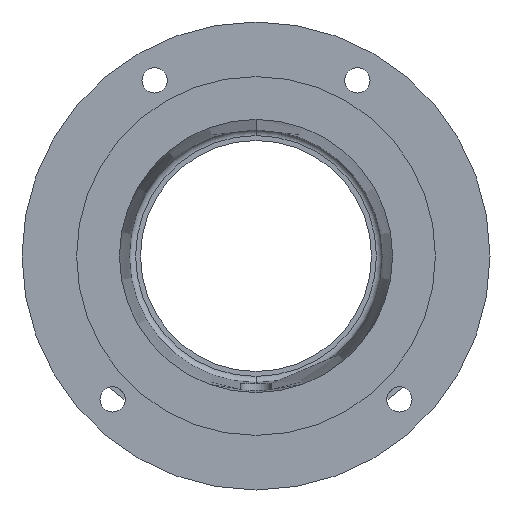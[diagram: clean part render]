
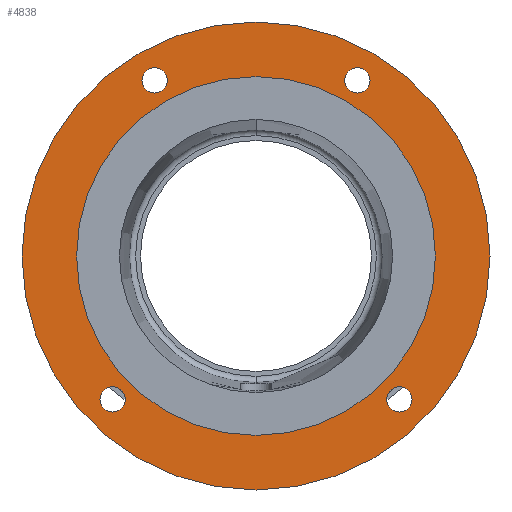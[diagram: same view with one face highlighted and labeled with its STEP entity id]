
A CAD part, front view. The second image highlights one B-rep face of the part: STEP entity #4838.
In plain terms, the highlighted planar face has unit normal (0, -1, 0).
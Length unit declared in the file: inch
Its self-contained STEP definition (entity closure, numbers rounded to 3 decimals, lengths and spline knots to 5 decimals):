
#6 = CARTESIAN_POINT ( 'NONE',  ( 0., 0., 0. ) ) ;
#9 = DIRECTION ( 'NONE',  ( 0., -1., 0. ) ) ;
#24 = DIRECTION ( 'NONE',  ( 0., -1., 0. ) ) ;
#59 = CIRCLE ( 'NONE', #3238, 0.20312 ) ;
#64 = DIRECTION ( 'NONE',  ( 0., 0., -1. ) ) ;
#126 = VERTEX_POINT ( 'NONE', #1645 ) ;
#138 = EDGE_CURVE ( 'NONE', #3826, #141, #2559, .T. ) ;
#141 = VERTEX_POINT ( 'NONE', #194 ) ;
#142 = EDGE_CURVE ( 'NONE', #1133, #4012, #1615, .T. ) ;
#154 = EDGE_CURVE ( 'NONE', #1554, #1224, #59, .T. ) ;
#156 = EDGE_CURVE ( 'NONE', #2859, #126, #4978, .T. ) ;
#159 = EDGE_CURVE ( 'NONE', #4796, #879, #3814, .T. ) ;
#162 = EDGE_CURVE ( 'NONE', #2935, #1548, #205, .T. ) ;
#182 = FACE_BOUND ( 'NONE', #1627, .T. ) ;
#194 = CARTESIAN_POINT ( 'NONE',  ( 0., 0., -3.75 ) ) ;
#205 = CIRCLE ( 'NONE', #3233, 2.875 ) ;
#219 = ORIENTED_EDGE ( 'NONE', *, *, #3125, .F. ) ;
#260 = CARTESIAN_POINT ( 'NONE',  ( -2.2981, 0., -2.50122 ) ) ;
#317 = ORIENTED_EDGE ( 'NONE', *, *, #138, .T. ) ;
#349 = FACE_BOUND ( 'NONE', #1304, .T. ) ;
#365 = CIRCLE ( 'NONE', #2359, 0.20312 ) ;
#544 = ORIENTED_EDGE ( 'NONE', *, *, #156, .F. ) ;
#732 = CARTESIAN_POINT ( 'NONE',  ( 0., 0., 2.875 ) ) ;
#750 = CARTESIAN_POINT ( 'NONE',  ( 0., 0., -2.875 ) ) ;
#879 = VERTEX_POINT ( 'NONE', #1575 ) ;
#1133 = VERTEX_POINT ( 'NONE', #4508 ) ;
#1141 = EDGE_LOOP ( 'NONE', ( #4378, #219 ) ) ;
#1178 = CARTESIAN_POINT ( 'NONE',  ( 1.625, 0., 2.81458 ) ) ;
#1224 = VERTEX_POINT ( 'NONE', #2904 ) ;
#1269 = CIRCLE ( 'NONE', #2049, 3.75 ) ;
#1304 = EDGE_LOOP ( 'NONE', ( #544, #5573 ) ) ;
#1313 = ORIENTED_EDGE ( 'NONE', *, *, #3827, .T. ) ;
#1389 = PLANE ( 'NONE',  #1512 ) ;
#1476 = EDGE_LOOP ( 'NONE', ( #3965, #5900 ) ) ;
#1512 = AXIS2_PLACEMENT_3D ( 'NONE', #1936, #5100, #2399 ) ;
#1548 = VERTEX_POINT ( 'NONE', #732 ) ;
#1554 = VERTEX_POINT ( 'NONE', #260 ) ;
#1563 = CARTESIAN_POINT ( 'NONE',  ( 0., 0., 3.75 ) ) ;
#1575 = CARTESIAN_POINT ( 'NONE',  ( 1.625, 0., 3.01771 ) ) ;
#1615 = CIRCLE ( 'NONE', #3155, 0.20313 ) ;
#1627 = EDGE_LOOP ( 'NONE', ( #5853, #1686 ) ) ;
#1645 = CARTESIAN_POINT ( 'NONE',  ( -1.625, 0., 3.01771 ) ) ;
#1661 = CARTESIAN_POINT ( 'NONE',  ( -1.625, 0., 2.81458 ) ) ;
#1686 = ORIENTED_EDGE ( 'NONE', *, *, #3788, .F. ) ;
#1703 = DIRECTION ( 'NONE',  ( 0., 0., -1. ) ) ;
#1716 = EDGE_LOOP ( 'NONE', ( #1313, #317 ) ) ;
#1936 = CARTESIAN_POINT ( 'NONE',  ( -2.20026, 0., 0. ) ) ;
#2024 = DIRECTION ( 'NONE',  ( 0., -1., 0. ) ) ;
#2049 = AXIS2_PLACEMENT_3D ( 'NONE', #2964, #9, #3452 ) ;
#2071 = AXIS2_PLACEMENT_3D ( 'NONE', #4763, #2024, #5180 ) ;
#2136 = DIRECTION ( 'NONE',  ( 0., 0., -1. ) ) ;
#2318 = AXIS2_PLACEMENT_3D ( 'NONE', #1178, #4478, #1703 ) ;
#2359 = AXIS2_PLACEMENT_3D ( 'NONE', #1661, #4864, #2136 ) ;
#2388 = AXIS2_PLACEMENT_3D ( 'NONE', #5679, #3015, #64 ) ;
#2399 = DIRECTION ( 'NONE',  ( 0., 0., 1. ) ) ;
#2417 = AXIS2_PLACEMENT_3D ( 'NONE', #5551, #2882, #5985 ) ;
#2423 = CIRCLE ( 'NONE', #2318, 0.20312 ) ;
#2559 = CIRCLE ( 'NONE', #5421, 3.75 ) ;
#2694 = FACE_OUTER_BOUND ( 'NONE', #1716, .T. ) ;
#2739 = EDGE_LOOP ( 'NONE', ( #4635, #4658 ) ) ;
#2859 = VERTEX_POINT ( 'NONE', #5829 ) ;
#2882 = DIRECTION ( 'NONE',  ( 0., -1., 0. ) ) ;
#2904 = CARTESIAN_POINT ( 'NONE',  ( -2.2981, 0., -2.09497 ) ) ;
#2935 = VERTEX_POINT ( 'NONE', #750 ) ;
#2964 = CARTESIAN_POINT ( 'NONE',  ( 0., 0., 0. ) ) ;
#3015 = DIRECTION ( 'NONE',  ( 0., -1., 0. ) ) ;
#3125 = EDGE_CURVE ( 'NONE', #4012, #1133, #5505, .T. ) ;
#3155 = AXIS2_PLACEMENT_3D ( 'NONE', #5896, #5866, #5784 ) ;
#3220 = AXIS2_PLACEMENT_3D ( 'NONE', #5425, #5404, #5387 ) ;
#3233 = AXIS2_PLACEMENT_3D ( 'NONE', #5317, #5308, #5301 ) ;
#3238 = AXIS2_PLACEMENT_3D ( 'NONE', #5733, #5703, #5664 ) ;
#3242 = AXIS2_PLACEMENT_3D ( 'NONE', #5579, #5557, #5526 ) ;
#3293 = EDGE_CURVE ( 'NONE', #1224, #1554, #5354, .T. ) ;
#3327 = CARTESIAN_POINT ( 'NONE',  ( 1.625, 0., 2.61146 ) ) ;
#3348 = EDGE_CURVE ( 'NONE', #126, #2859, #365, .T. ) ;
#3407 = EDGE_CURVE ( 'NONE', #879, #4796, #2423, .T. ) ;
#3452 = DIRECTION ( 'NONE',  ( 0., 0., -1. ) ) ;
#3788 = EDGE_CURVE ( 'NONE', #1548, #2935, #3805, .T. ) ;
#3805 = CIRCLE ( 'NONE', #2071, 2.875 ) ;
#3814 = CIRCLE ( 'NONE', #3220, 0.20312 ) ;
#3826 = VERTEX_POINT ( 'NONE', #1563 ) ;
#3827 = EDGE_CURVE ( 'NONE', #141, #3826, #1269, .T. ) ;
#3935 = FACE_BOUND ( 'NONE', #1476, .T. ) ;
#3965 = ORIENTED_EDGE ( 'NONE', *, *, #154, .F. ) ;
#4012 = VERTEX_POINT ( 'NONE', #4088 ) ;
#4088 = CARTESIAN_POINT ( 'NONE',  ( 2.2981, 0., -2.09497 ) ) ;
#4378 = ORIENTED_EDGE ( 'NONE', *, *, #142, .F. ) ;
#4478 = DIRECTION ( 'NONE',  ( 0., -1., 0. ) ) ;
#4508 = CARTESIAN_POINT ( 'NONE',  ( 2.2981, 0., -2.50122 ) ) ;
#4635 = ORIENTED_EDGE ( 'NONE', *, *, #159, .F. ) ;
#4658 = ORIENTED_EDGE ( 'NONE', *, *, #3407, .F. ) ;
#4763 = CARTESIAN_POINT ( 'NONE',  ( 0., 0., 0. ) ) ;
#4796 = VERTEX_POINT ( 'NONE', #3327 ) ;
#4838 = ADVANCED_FACE ( 'NONE', ( #5094, #3935, #349, #5211, #182, #2694 ), #1389, .F. ) ;
#4864 = DIRECTION ( 'NONE',  ( 0., -1., 0. ) ) ;
#4978 = CIRCLE ( 'NONE', #3242, 0.20312 ) ;
#5094 = FACE_BOUND ( 'NONE', #1141, .T. ) ;
#5100 = DIRECTION ( 'NONE',  ( 0., 1., 0. ) ) ;
#5180 = DIRECTION ( 'NONE',  ( 0., 0., -1. ) ) ;
#5211 = FACE_BOUND ( 'NONE', #2739, .T. ) ;
#5301 = DIRECTION ( 'NONE',  ( 0., 0., -1. ) ) ;
#5308 = DIRECTION ( 'NONE',  ( 0., -1., 0. ) ) ;
#5317 = CARTESIAN_POINT ( 'NONE',  ( 0., 0., 0. ) ) ;
#5354 = CIRCLE ( 'NONE', #2388, 0.20312 ) ;
#5387 = DIRECTION ( 'NONE',  ( 0., 0., -1. ) ) ;
#5404 = DIRECTION ( 'NONE',  ( 0., -1., 0. ) ) ;
#5421 = AXIS2_PLACEMENT_3D ( 'NONE', #6, #24, #6047 ) ;
#5425 = CARTESIAN_POINT ( 'NONE',  ( 1.625, 0., 2.81458 ) ) ;
#5505 = CIRCLE ( 'NONE', #2417, 0.20313 ) ;
#5526 = DIRECTION ( 'NONE',  ( 0., 0., -1. ) ) ;
#5551 = CARTESIAN_POINT ( 'NONE',  ( 2.2981, 0., -2.2981 ) ) ;
#5557 = DIRECTION ( 'NONE',  ( 0., -1., 0. ) ) ;
#5573 = ORIENTED_EDGE ( 'NONE', *, *, #3348, .F. ) ;
#5579 = CARTESIAN_POINT ( 'NONE',  ( -1.625, 0., 2.81458 ) ) ;
#5664 = DIRECTION ( 'NONE',  ( 0., 0., -1. ) ) ;
#5679 = CARTESIAN_POINT ( 'NONE',  ( -2.2981, 0., -2.2981 ) ) ;
#5703 = DIRECTION ( 'NONE',  ( 0., -1., 0. ) ) ;
#5733 = CARTESIAN_POINT ( 'NONE',  ( -2.2981, 0., -2.2981 ) ) ;
#5784 = DIRECTION ( 'NONE',  ( 0., 0., -1. ) ) ;
#5829 = CARTESIAN_POINT ( 'NONE',  ( -1.625, 0., 2.61146 ) ) ;
#5853 = ORIENTED_EDGE ( 'NONE', *, *, #162, .F. ) ;
#5866 = DIRECTION ( 'NONE',  ( 0., -1., 0. ) ) ;
#5896 = CARTESIAN_POINT ( 'NONE',  ( 2.2981, 0., -2.2981 ) ) ;
#5900 = ORIENTED_EDGE ( 'NONE', *, *, #3293, .F. ) ;
#5985 = DIRECTION ( 'NONE',  ( 0., 0., -1. ) ) ;
#6047 = DIRECTION ( 'NONE',  ( 0., 0., -1. ) ) ;
